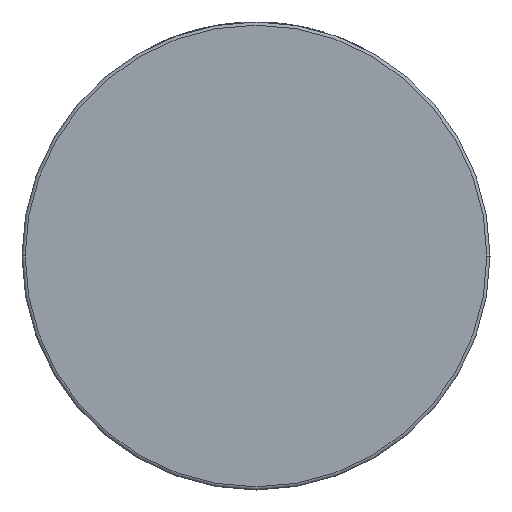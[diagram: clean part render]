
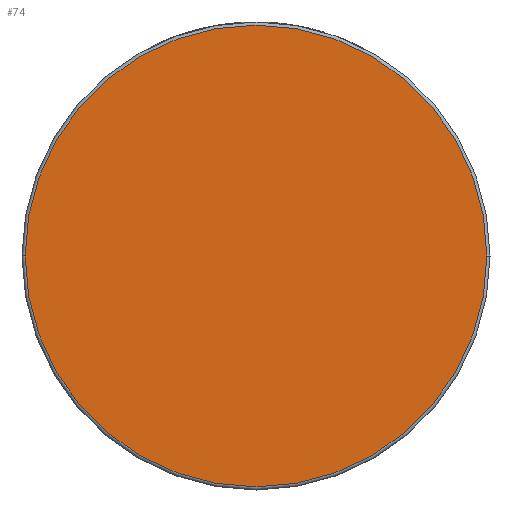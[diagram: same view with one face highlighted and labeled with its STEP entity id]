
A CAD part, front view. The second image highlights one B-rep face of the part: STEP entity #74.
In plain terms, the highlighted planar face has unit normal (0, -1, 0).
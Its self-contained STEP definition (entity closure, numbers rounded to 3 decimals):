
#74 = ADVANCED_FACE ( 'NONE', ( #4344 ), #1169, .T. ) ;
#284 = VERTEX_POINT ( 'NONE', #3252 ) ;
#395 = DIRECTION ( 'NONE',  ( 0., -1., 0. ) ) ;
#873 = EDGE_CURVE ( 'NONE', #284, #954, #3296, .T. ) ;
#954 = VERTEX_POINT ( 'NONE', #2649 ) ;
#1159 = CARTESIAN_POINT ( 'NONE',  ( 0., -38., 0. ) ) ;
#1169 = PLANE ( 'NONE',  #1882 ) ;
#1451 = DIRECTION ( 'NONE',  ( 1., 0., 0. ) ) ;
#1644 = ORIENTED_EDGE ( 'NONE', *, *, #873, .T. ) ;
#1882 = AXIS2_PLACEMENT_3D ( 'NONE', #3746, #2305, #3325 ) ;
#1902 = CIRCLE ( 'NONE', #4057, 73. ) ;
#2232 = DIRECTION ( 'NONE',  ( 0., -1., 0. ) ) ;
#2305 = DIRECTION ( 'NONE',  ( 0., -1., 0. ) ) ;
#2649 = CARTESIAN_POINT ( 'NONE',  ( 73., -38., 0. ) ) ;
#3127 = EDGE_CURVE ( 'NONE', #954, #284, #1902, .T. ) ;
#3252 = CARTESIAN_POINT ( 'NONE',  ( -73., -38., 0. ) ) ;
#3296 = CIRCLE ( 'NONE', #3516, 73. ) ;
#3307 = EDGE_LOOP ( 'NONE', ( #3989, #1644 ) ) ;
#3325 = DIRECTION ( 'NONE',  ( 1., 0., 0. ) ) ;
#3516 = AXIS2_PLACEMENT_3D ( 'NONE', #3567, #395, #1451 ) ;
#3567 = CARTESIAN_POINT ( 'NONE',  ( 0., -38., 0. ) ) ;
#3619 = DIRECTION ( 'NONE',  ( 1., 0., 0. ) ) ;
#3746 = CARTESIAN_POINT ( 'NONE',  ( 74., -38., 0. ) ) ;
#3989 = ORIENTED_EDGE ( 'NONE', *, *, #3127, .T. ) ;
#4057 = AXIS2_PLACEMENT_3D ( 'NONE', #1159, #2232, #3619 ) ;
#4344 = FACE_OUTER_BOUND ( 'NONE', #3307, .T. ) ;
